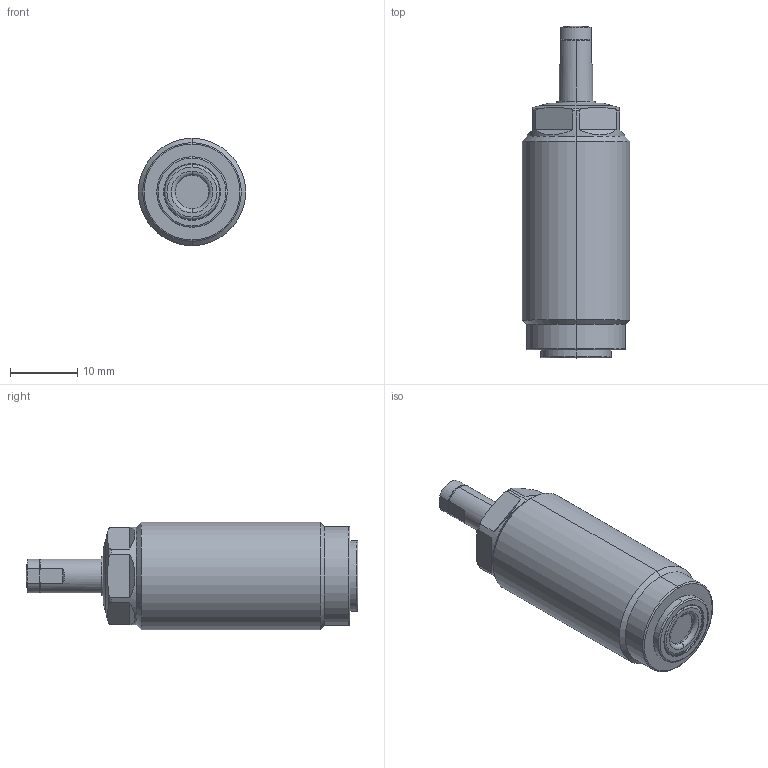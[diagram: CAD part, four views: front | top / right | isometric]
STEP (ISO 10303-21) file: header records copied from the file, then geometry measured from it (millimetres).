
FILE_DESCRIPTION(/* description */ (''),/* implementation_level */ '2;1');
FILE_NAME(/* name */ 'TNE16.stp',/* time_stamp */ '2025-01-09T15:42:54+08:00',/* author */ (''),/* organization */ (''),/* preprocessor_version */ 'ST-DEVELOPER v16.7',/* originating_system */ 'SIEMENS PLM Software NX 12.0',/* authorisation */ '');
FILE_SCHEMA (('AUTOMOTIVE_DESIGN { 1 0 10303 214 3 1 1 1 }'));
Length unit declared in the file: millimetre
Products named in the file (5): TNE16-10; TNE16-03; TNE16-02; TNE16-01; TNE16_stp
Assembly tree (4 placements, depth 2):
  TNE16_stp
    TNE16-01
    TNE16-02
    TNE16-03
    TNE16-10
Bounding box: 16 x 49.5 x 16 mm (x, y, z)
Volume: 7116.3 mm3; surface area: 2711.6 mm2
Topology: 4 solids, 4 shells, 110 faces, 244 edges, 149 vertices
Faces by surface type: plane 33, torus 29, cylinder 28, cone 19, sphere 1
Full cylindrical faces by diameter (mm): 2.1 x1, 3 x1
Entity records: 3365 total; most frequent: CARTESIAN_POINT 809, DIRECTION 566, ORIENTED_EDGE 468, AXIS2_PLACEMENT_3D 247, EDGE_CURVE 234, VERTEX_POINT 148, CIRCLE 132, EDGE_LOOP 126
